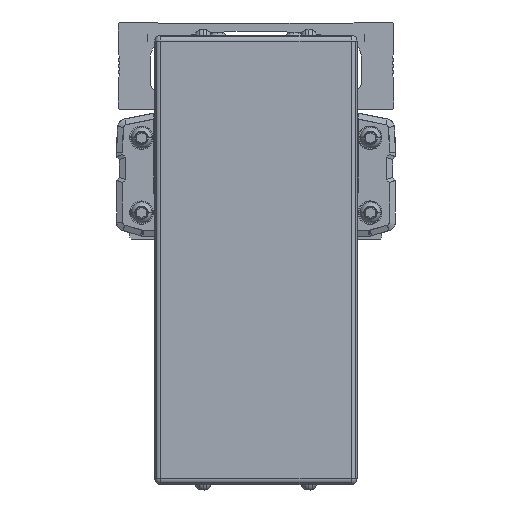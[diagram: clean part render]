
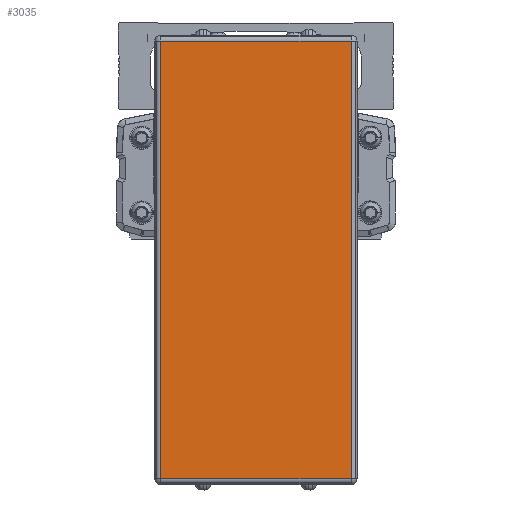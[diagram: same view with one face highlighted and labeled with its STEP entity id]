
A CAD part, front view. The second image highlights one B-rep face of the part: STEP entity #3035.
In plain terms, the highlighted planar face has unit normal (0, -1, 0).
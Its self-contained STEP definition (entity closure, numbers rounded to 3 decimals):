
#3035=ADVANCED_FACE('',(#7699),#7700,.T.);
#7699=FACE_OUTER_BOUND('',#14378,.T.);
#7700=PLANE('',#14379);
#14378=EDGE_LOOP('',(#24343,#24344,#24345,#24346));
#14379=AXIS2_PLACEMENT_3D('',#24347,#24348,#24349);
#24343=ORIENTED_EDGE('',*,*,#42259,.F.);
#24344=ORIENTED_EDGE('',*,*,#42260,.F.);
#24345=ORIENTED_EDGE('',*,*,#42261,.F.);
#24346=ORIENTED_EDGE('',*,*,#42262,.F.);
#24347=CARTESIAN_POINT('',(0.,-289.778,-50.1));
#24348=DIRECTION('',(0.0,-1.0,0.));
#24349=DIRECTION('',(1.0,0.0,0.0));
#42259=EDGE_CURVE('',#50912,#50913,#50914,.T.);
#42260=EDGE_CURVE('',#50915,#50912,#50916,.T.);
#42261=EDGE_CURVE('',#49873,#50915,#50917,.T.);
#42262=EDGE_CURVE('',#50913,#49873,#50918,.T.);
#49873=VERTEX_POINT('',#61568);
#50912=VERTEX_POINT('',#63042);
#50913=VERTEX_POINT('',#63043);
#50914=LINE('',#63044,#63045);
#50915=VERTEX_POINT('',#63046);
#50916=LINE('',#63047,#63048);
#50917=LINE('',#63049,#63050);
#50918=LINE('',#63051,#63052);
#61568=CARTESIAN_POINT('',(-32.5,-289.778,-124.7));
#63042=CARTESIAN_POINT('',(32.5,-289.778,24.5));
#63043=CARTESIAN_POINT('',(32.5,-289.778,-124.7));
#63044=CARTESIAN_POINT('',(32.5,-289.778,-50.1));
#63045=VECTOR('',#78200,10.0);
#63046=CARTESIAN_POINT('',(-32.5,-289.778,24.5));
#63047=CARTESIAN_POINT('',(0.,-289.778,24.5));
#63048=VECTOR('',#78201,10.0);
#63049=CARTESIAN_POINT('',(-32.5,-289.778,-50.1));
#63050=VECTOR('',#78202,10.0);
#63051=CARTESIAN_POINT('',(0.,-289.778,-124.7));
#63052=VECTOR('',#78203,10.0);
#78200=DIRECTION('',(0.0,0.,-1.0));
#78201=DIRECTION('',(1.0,0.0,0.0));
#78202=DIRECTION('',(0.0,0.,1.0));
#78203=DIRECTION('',(-1.0,0.0,0.0));
